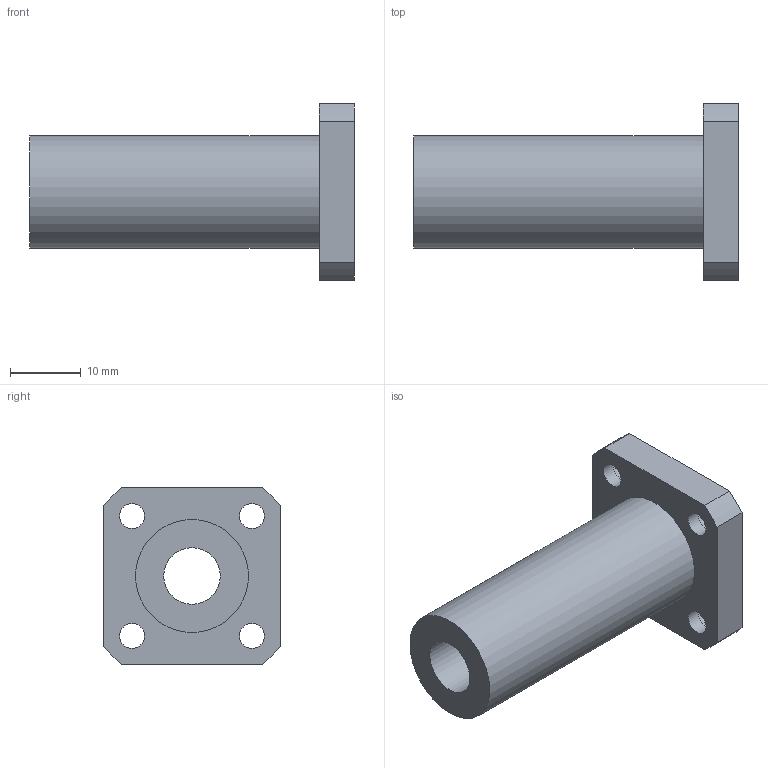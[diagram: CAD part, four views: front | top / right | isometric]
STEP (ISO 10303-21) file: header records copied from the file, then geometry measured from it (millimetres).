
FILE_DESCRIPTION(/* description */ (''),/* implementation_level */ '2;1');
FILE_NAME(/* name */ 'LMEK8LUU',/* time_stamp */ '2019-07-02T15:24:40+02:00',/* author */ ('VĂ©gh MĂˇtĂ©'),/* organization */ ('Bearing Kft'),/* preprocessor_version */ 'ST-DEVELOPER v16.7',/* originating_system */ 'DEX',/* authorisation */ $);
FILE_SCHEMA (('AUTOMOTIVE_DESIGN {1 0 10303 214 3 1 1}'));
Length unit declared in the file: millimetre
Products named in the file (1): LMEK8LUU
Bounding box: 46 x 25 x 25 mm (x, y, z)
Volume: 8573.5 mm3; surface area: 5064.6 mm2
Topology: 1 solids, 1 shells, 344 faces, 867 edges, 578 vertices
Faces by surface type: plane 265, bspline 63, cylinder 16
Full cylindrical faces by diameter (mm): 3.5 x4, 6 x4, 8 x1, 16 x1
Entity records: 12672 total; most frequent: CARTESIAN_POINT 4782, ORIENTED_EDGE 1708, DIRECTION 1324, EDGE_CURVE 854, LINE 696, VECTOR 696, VERTEX_POINT 578, EDGE_LOOP 420
